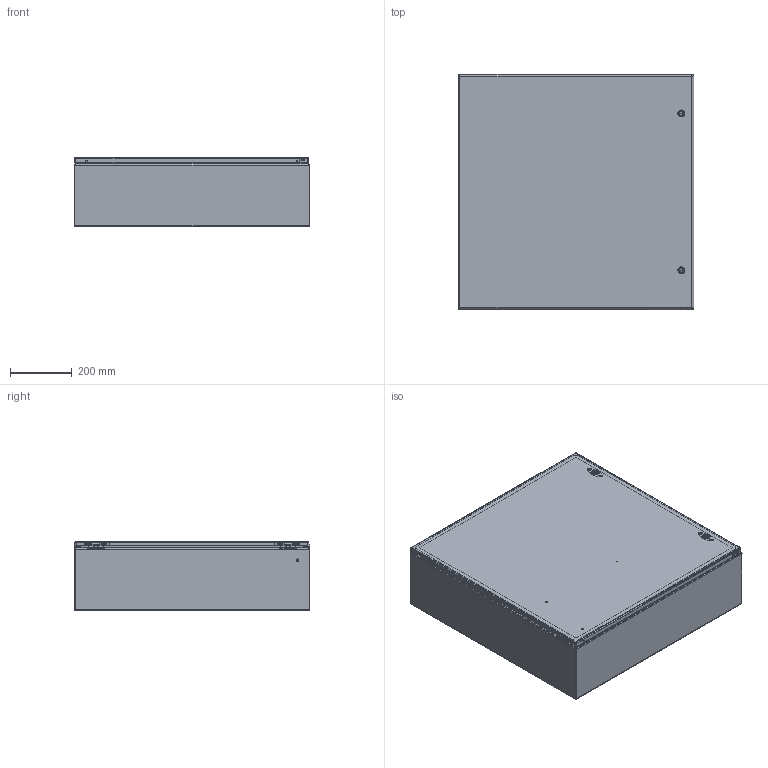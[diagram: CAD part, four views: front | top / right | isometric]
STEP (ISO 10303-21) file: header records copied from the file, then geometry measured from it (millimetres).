
FILE_DESCRIPTION (( 'STEP AP203' ), '1' );
FILE_NAME ('csd30308.STEP', '2012-06-11T16:25:53', ( 'User' ), ( 'Pentair Inc' ), 'SwSTEP 2.0', 'SolidWorks 2010', '' );
FILE_SCHEMA (( 'CONFIG_CONTROL_DESIGN' ));
Length unit declared in the file: inch
Products named in the file (27): 99401225; 87931362_87931362; 64101001; 64201001; 87541994_Installed Height; 87541995; 64202001; 64210001; 64203001; 87927840_87927840; 87932903; 64138001; 87938008; 87543027; 89076399; 89076193; 89056623; 87929507; 87929767; 87929769_Installed on Pin; csd30308; 87951279; 87755763_default; 23271001_After Weld; 87937941_assy; 87937981_weldment; 87936140
Assembly tree (43 placements, depth 4):
  csd30308
    89076399  x2
      89076193
      89056623
    87543027  x2
    87929507  x2
      87929769_Installed on Pin
      87929767
    87937941_assy
      64101001  x2
        87541995
        64202001
        64210001
        87541994_Installed Height
        87927840_87927840
        64203001
        64201001
      87938008
      64138001  x2
      87932903  x4
      87937981_weldment
        87931362_87931362  x6
        87936140
        99401225
    87951279
      87755763_default
      23271001_After Weld  x4
      99401225
Bounding box: 762 x 762.77 x 223.9 mm (x, y, z)
Volume: 3716777.3 mm3; surface area: 3967036.7 mm2
Topology: 47 solids, 47 shells, 2341 faces, 5784 edges, 3492 vertices
Faces by surface type: plane 851, cylinder 714, bspline 512, cone 132, torus 124, sphere 8
Entity records: 47023 total; most frequent: CARTESIAN_POINT 16415, ORIENTED_EDGE 5978, DIRECTION 5255, EDGE_CURVE 2989, AXIS2_PLACEMENT_3D 1890, VERTEX_POINT 1834, LINE 1475, VECTOR 1475
